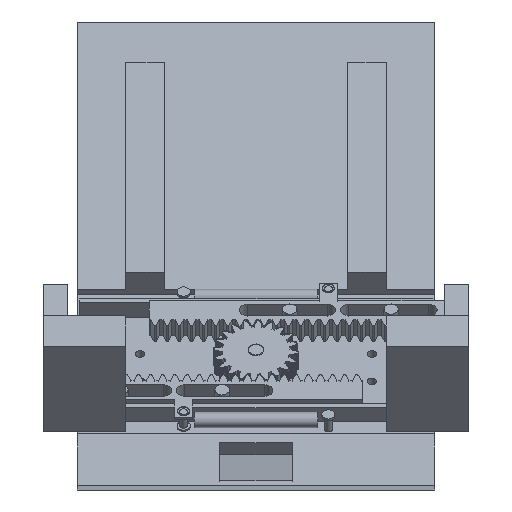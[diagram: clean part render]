
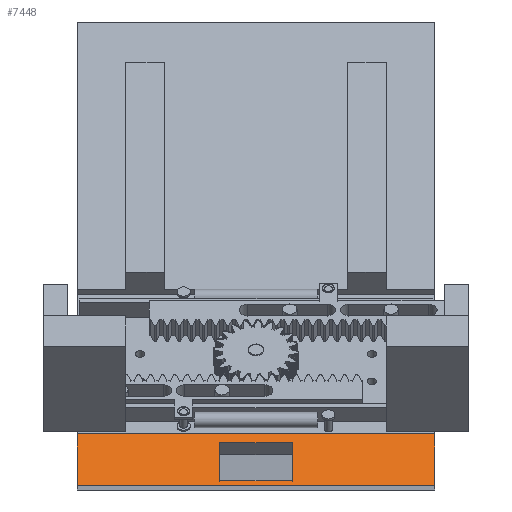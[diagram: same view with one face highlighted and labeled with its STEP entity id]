
A CAD part, front view. The second image highlights one B-rep face of the part: STEP entity #7448.
In plain terms, the highlighted planar face has unit normal (0, -0.707, 0.707).
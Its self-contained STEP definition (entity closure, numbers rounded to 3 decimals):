
#1767 = PLANE('',#1768);
#1768 = AXIS2_PLACEMENT_3D('',#1769,#1770,#1771);
#1769 = CARTESIAN_POINT('',(7.5,-49.202,60.041));
#1770 = DIRECTION('',(1.,0.,0.));
#1771 = DIRECTION('',(0.,0.707,0.707));
#1795 = PLANE('',#1796);
#1796 = AXIS2_PLACEMENT_3D('',#1797,#1798,#1799);
#1797 = CARTESIAN_POINT('',(-7.5,-49.202,60.041));
#1798 = DIRECTION('',(0.,0.707,0.707));
#1799 = DIRECTION('',(1.,0.,0.));
#1823 = PLANE('',#1824);
#1824 = AXIS2_PLACEMENT_3D('',#1825,#1826,#1827);
#1825 = CARTESIAN_POINT('',(-7.5,-49.202,60.041));
#1826 = DIRECTION('',(1.,0.,0.));
#1827 = DIRECTION('',(0.,0.707,0.707));
#2701 = PLANE('',#2702);
#2702 = AXIS2_PLACEMENT_3D('',#2703,#2704,#2705);
#2703 = CARTESIAN_POINT('',(-37.,-48.,57.));
#2704 = DIRECTION('',(-0.,1.,0.));
#2705 = DIRECTION('',(0.,0.,-1.));
#2729 = PLANE('',#2730);
#2730 = AXIS2_PLACEMENT_3D('',#2731,#2732,#2733);
#2731 = CARTESIAN_POINT('',(37.,16.992,89.829));
#2732 = DIRECTION('',(1.,0.,0.));
#2733 = DIRECTION('',(-0.,0.,1.));
#2783 = PLANE('',#2784);
#2784 = AXIS2_PLACEMENT_3D('',#2785,#2786,#2787);
#2785 = CARTESIAN_POINT('',(-37.,16.992,89.829));
#2786 = DIRECTION('',(1.,0.,0.));
#2787 = DIRECTION('',(-0.,0.,1.));
#3708 = PLANE('',#3709);
#3709 = AXIS2_PLACEMENT_3D('',#3710,#3711,#3712);
#3710 = CARTESIAN_POINT('',(-7.5,-41.282,67.96));
#3711 = DIRECTION('',(0.,0.707,0.707));
#3712 = DIRECTION('',(1.,0.,0.));
#4681 = VERTEX_POINT('',#4682);
#4682 = CARTESIAN_POINT('',(7.5,-39.161,65.839));
#4703 = EDGE_CURVE('',#4681,#4704,#4706,.T.);
#4704 = VERTEX_POINT('',#4705);
#4705 = CARTESIAN_POINT('',(7.5,-47.081,57.919));
#4706 = SURFACE_CURVE('',#4707,(#4711,#4718),.PCURVE_S1.);
#4707 = LINE('',#4708,#4709);
#4708 = CARTESIAN_POINT('',(7.5,0.46,105.46));
#4709 = VECTOR('',#4710,1.);
#4710 = DIRECTION('',(0.,-0.707,-0.707));
#4711 = PCURVE('',#1767,#4712);
#4712 = DEFINITIONAL_REPRESENTATION('',(#4713),#4717);
#4713 = LINE('',#4714,#4715);
#4714 = CARTESIAN_POINT('',(67.232,-3.));
#4715 = VECTOR('',#4716,1.);
#4716 = DIRECTION('',(-1.,0.));
#4717 = ( GEOMETRIC_REPRESENTATION_CONTEXT(2) 
PARAMETRIC_REPRESENTATION_CONTEXT() REPRESENTATION_CONTEXT('2D SPACE',''
  ) );
#4718 = PCURVE('',#4719,#4724);
#4719 = PLANE('',#4720);
#4720 = AXIS2_PLACEMENT_3D('',#4721,#4722,#4723);
#4721 = CARTESIAN_POINT('',(-37.,48.,153.));
#4722 = DIRECTION('',(0.,0.707,-0.707));
#4723 = DIRECTION('',(0.,-0.707,-0.707));
#4724 = DEFINITIONAL_REPRESENTATION('',(#4725),#4729);
#4725 = LINE('',#4726,#4727);
#4726 = CARTESIAN_POINT('',(67.232,-44.5));
#4727 = VECTOR('',#4728,1.);
#4728 = DIRECTION('',(1.,0.));
#4729 = ( GEOMETRIC_REPRESENTATION_CONTEXT(2) 
PARAMETRIC_REPRESENTATION_CONTEXT() REPRESENTATION_CONTEXT('2D SPACE',''
  ) );
#4759 = VERTEX_POINT('',#4760);
#4760 = CARTESIAN_POINT('',(-7.5,-47.081,57.919));
#4781 = EDGE_CURVE('',#4759,#4704,#4782,.T.);
#4782 = SURFACE_CURVE('',#4783,(#4787,#4794),.PCURVE_S1.);
#4783 = LINE('',#4784,#4785);
#4784 = CARTESIAN_POINT('',(-22.25,-47.081,57.919));
#4785 = VECTOR('',#4786,1.);
#4786 = DIRECTION('',(1.,-0.,0.));
#4787 = PCURVE('',#1795,#4788);
#4788 = DEFINITIONAL_REPRESENTATION('',(#4789),#4793);
#4789 = LINE('',#4790,#4791);
#4790 = CARTESIAN_POINT('',(-14.75,3.));
#4791 = VECTOR('',#4792,1.);
#4792 = DIRECTION('',(1.,0.));
#4793 = ( GEOMETRIC_REPRESENTATION_CONTEXT(2) 
PARAMETRIC_REPRESENTATION_CONTEXT() REPRESENTATION_CONTEXT('2D SPACE',''
  ) );
#4794 = PCURVE('',#4719,#4795);
#4795 = DEFINITIONAL_REPRESENTATION('',(#4796),#4800);
#4796 = LINE('',#4797,#4798);
#4797 = CARTESIAN_POINT('',(134.465,-14.75));
#4798 = VECTOR('',#4799,1.);
#4799 = DIRECTION('',(0.,-1.));
#4800 = ( GEOMETRIC_REPRESENTATION_CONTEXT(2) 
PARAMETRIC_REPRESENTATION_CONTEXT() REPRESENTATION_CONTEXT('2D SPACE',''
  ) );
#4808 = VERTEX_POINT('',#4809);
#4809 = CARTESIAN_POINT('',(-7.5,-39.161,65.839));
#4830 = EDGE_CURVE('',#4808,#4759,#4831,.T.);
#4831 = SURFACE_CURVE('',#4832,(#4836,#4843),.PCURVE_S1.);
#4832 = LINE('',#4833,#4834);
#4833 = CARTESIAN_POINT('',(-7.5,0.46,105.46));
#4834 = VECTOR('',#4835,1.);
#4835 = DIRECTION('',(0.,-0.707,-0.707));
#4836 = PCURVE('',#1823,#4837);
#4837 = DEFINITIONAL_REPRESENTATION('',(#4838),#4842);
#4838 = LINE('',#4839,#4840);
#4839 = CARTESIAN_POINT('',(67.232,-3.));
#4840 = VECTOR('',#4841,1.);
#4841 = DIRECTION('',(-1.,0.));
#4842 = ( GEOMETRIC_REPRESENTATION_CONTEXT(2) 
PARAMETRIC_REPRESENTATION_CONTEXT() REPRESENTATION_CONTEXT('2D SPACE',''
  ) );
#4843 = PCURVE('',#4719,#4844);
#4844 = DEFINITIONAL_REPRESENTATION('',(#4845),#4849);
#4845 = LINE('',#4846,#4847);
#4846 = CARTESIAN_POINT('',(67.232,-29.5));
#4847 = VECTOR('',#4848,1.);
#4848 = DIRECTION('',(1.,0.));
#4849 = ( GEOMETRIC_REPRESENTATION_CONTEXT(2) 
PARAMETRIC_REPRESENTATION_CONTEXT() REPRESENTATION_CONTEXT('2D SPACE',''
  ) );
#6621 = EDGE_CURVE('',#6622,#6624,#6626,.T.);
#6622 = VERTEX_POINT('',#6623);
#6623 = CARTESIAN_POINT('',(-37.,-48.,57.));
#6624 = VERTEX_POINT('',#6625);
#6625 = CARTESIAN_POINT('',(37.,-48.,57.));
#6626 = SURFACE_CURVE('',#6627,(#6631,#6638),.PCURVE_S1.);
#6627 = LINE('',#6628,#6629);
#6628 = CARTESIAN_POINT('',(-37.,-48.,57.));
#6629 = VECTOR('',#6630,1.);
#6630 = DIRECTION('',(1.,0.,0.));
#6631 = PCURVE('',#2701,#6632);
#6632 = DEFINITIONAL_REPRESENTATION('',(#6633),#6637);
#6633 = LINE('',#6634,#6635);
#6634 = CARTESIAN_POINT('',(0.,0.));
#6635 = VECTOR('',#6636,1.);
#6636 = DIRECTION('',(0.,-1.));
#6637 = ( GEOMETRIC_REPRESENTATION_CONTEXT(2) 
PARAMETRIC_REPRESENTATION_CONTEXT() REPRESENTATION_CONTEXT('2D SPACE',''
  ) );
#6638 = PCURVE('',#4719,#6639);
#6639 = DEFINITIONAL_REPRESENTATION('',(#6640),#6644);
#6640 = LINE('',#6641,#6642);
#6641 = CARTESIAN_POINT('',(135.765,0.));
#6642 = VECTOR('',#6643,1.);
#6643 = DIRECTION('',(0.,-1.));
#6644 = ( GEOMETRIC_REPRESENTATION_CONTEXT(2) 
PARAMETRIC_REPRESENTATION_CONTEXT() REPRESENTATION_CONTEXT('2D SPACE',''
  ) );
#6692 = EDGE_CURVE('',#6693,#6624,#6695,.T.);
#6693 = VERTEX_POINT('',#6694);
#6694 = CARTESIAN_POINT('',(37.,-37.323,67.677));
#6695 = SURFACE_CURVE('',#6696,(#6700,#6707),.PCURVE_S1.);
#6696 = LINE('',#6697,#6698);
#6697 = CARTESIAN_POINT('',(37.,48.,153.));
#6698 = VECTOR('',#6699,1.);
#6699 = DIRECTION('',(0.,-0.707,-0.707));
#6700 = PCURVE('',#2729,#6701);
#6701 = DEFINITIONAL_REPRESENTATION('',(#6702),#6706);
#6702 = LINE('',#6703,#6704);
#6703 = CARTESIAN_POINT('',(63.171,-31.008));
#6704 = VECTOR('',#6705,1.);
#6705 = DIRECTION('',(-0.707,0.707));
#6706 = ( GEOMETRIC_REPRESENTATION_CONTEXT(2) 
PARAMETRIC_REPRESENTATION_CONTEXT() REPRESENTATION_CONTEXT('2D SPACE',''
  ) );
#6707 = PCURVE('',#4719,#6708);
#6708 = DEFINITIONAL_REPRESENTATION('',(#6709),#6713);
#6709 = LINE('',#6710,#6711);
#6710 = CARTESIAN_POINT('',(0.,-74.));
#6711 = VECTOR('',#6712,1.);
#6712 = DIRECTION('',(1.,0.));
#6713 = ( GEOMETRIC_REPRESENTATION_CONTEXT(2) 
PARAMETRIC_REPRESENTATION_CONTEXT() REPRESENTATION_CONTEXT('2D SPACE',''
  ) );
#6861 = PLANE('',#6862);
#6862 = AXIS2_PLACEMENT_3D('',#6863,#6864,#6865);
#6863 = CARTESIAN_POINT('',(-37.1,-41.495,71.849));
#6864 = DIRECTION('',(0.,0.707,0.707));
#6865 = DIRECTION('',(1.,0.,0.));
#6924 = EDGE_CURVE('',#6925,#6622,#6927,.T.);
#6925 = VERTEX_POINT('',#6926);
#6926 = CARTESIAN_POINT('',(-37.,-37.323,67.677));
#6927 = SURFACE_CURVE('',#6928,(#6932,#6939),.PCURVE_S1.);
#6928 = LINE('',#6929,#6930);
#6929 = CARTESIAN_POINT('',(-37.,48.,153.));
#6930 = VECTOR('',#6931,1.);
#6931 = DIRECTION('',(0.,-0.707,-0.707));
#6932 = PCURVE('',#2783,#6933);
#6933 = DEFINITIONAL_REPRESENTATION('',(#6934),#6938);
#6934 = LINE('',#6935,#6936);
#6935 = CARTESIAN_POINT('',(63.171,-31.008));
#6936 = VECTOR('',#6937,1.);
#6937 = DIRECTION('',(-0.707,0.707));
#6938 = ( GEOMETRIC_REPRESENTATION_CONTEXT(2) 
PARAMETRIC_REPRESENTATION_CONTEXT() REPRESENTATION_CONTEXT('2D SPACE',''
  ) );
#6939 = PCURVE('',#4719,#6940);
#6940 = DEFINITIONAL_REPRESENTATION('',(#6941),#6945);
#6941 = LINE('',#6942,#6943);
#6942 = CARTESIAN_POINT('',(0.,0.));
#6943 = VECTOR('',#6944,1.);
#6944 = DIRECTION('',(1.,0.));
#6945 = ( GEOMETRIC_REPRESENTATION_CONTEXT(2) 
PARAMETRIC_REPRESENTATION_CONTEXT() REPRESENTATION_CONTEXT('2D SPACE',''
  ) );
#7295 = EDGE_CURVE('',#4808,#4681,#7296,.T.);
#7296 = SURFACE_CURVE('',#7297,(#7301,#7308),.PCURVE_S1.);
#7297 = LINE('',#7298,#7299);
#7298 = CARTESIAN_POINT('',(-22.25,-39.161,65.839));
#7299 = VECTOR('',#7300,1.);
#7300 = DIRECTION('',(1.,-0.,0.));
#7301 = PCURVE('',#3708,#7302);
#7302 = DEFINITIONAL_REPRESENTATION('',(#7303),#7307);
#7303 = LINE('',#7304,#7305);
#7304 = CARTESIAN_POINT('',(-14.75,3.));
#7305 = VECTOR('',#7306,1.);
#7306 = DIRECTION('',(1.,0.));
#7307 = ( GEOMETRIC_REPRESENTATION_CONTEXT(2) 
PARAMETRIC_REPRESENTATION_CONTEXT() REPRESENTATION_CONTEXT('2D SPACE',''
  ) );
#7308 = PCURVE('',#4719,#7309);
#7309 = DEFINITIONAL_REPRESENTATION('',(#7310),#7314);
#7310 = LINE('',#7311,#7312);
#7311 = CARTESIAN_POINT('',(123.265,-14.75));
#7312 = VECTOR('',#7313,1.);
#7313 = DIRECTION('',(0.,-1.));
#7314 = ( GEOMETRIC_REPRESENTATION_CONTEXT(2) 
PARAMETRIC_REPRESENTATION_CONTEXT() REPRESENTATION_CONTEXT('2D SPACE',''
  ) );
#7448 = ADVANCED_FACE('',(#7449,#7473),#4719,.F.);
#7449 = FACE_BOUND('',#7450,.F.);
#7450 = EDGE_LOOP('',(#7451,#7452,#7471,#7472));
#7451 = ORIENTED_EDGE('',*,*,#6924,.F.);
#7452 = ORIENTED_EDGE('',*,*,#7453,.T.);
#7453 = EDGE_CURVE('',#6925,#6693,#7454,.T.);
#7454 = SURFACE_CURVE('',#7455,(#7459,#7465),.PCURVE_S1.);
#7455 = LINE('',#7456,#7457);
#7456 = CARTESIAN_POINT('',(-37.05,-37.323,67.677));
#7457 = VECTOR('',#7458,1.);
#7458 = DIRECTION('',(1.,-0.,0.));
#7459 = PCURVE('',#4719,#7460);
#7460 = DEFINITIONAL_REPRESENTATION('',(#7461),#7464);
#7461 = B_SPLINE_CURVE_WITH_KNOTS('',1,(#7462,#7463),.UNSPECIFIED.,.F.,
  .F.,(2,2),(0.05,74.05),.PIECEWISE_BEZIER_KNOTS.);
#7462 = CARTESIAN_POINT('',(120.665,0.));
#7463 = CARTESIAN_POINT('',(120.665,-74.));
#7464 = ( GEOMETRIC_REPRESENTATION_CONTEXT(2) 
PARAMETRIC_REPRESENTATION_CONTEXT() REPRESENTATION_CONTEXT('2D SPACE',''
  ) );
#7465 = PCURVE('',#6861,#7466);
#7466 = DEFINITIONAL_REPRESENTATION('',(#7467),#7470);
#7467 = B_SPLINE_CURVE_WITH_KNOTS('',1,(#7468,#7469),.UNSPECIFIED.,.F.,
  .F.,(2,2),(0.05,74.05),.PIECEWISE_BEZIER_KNOTS.);
#7468 = CARTESIAN_POINT('',(0.1,5.9));
#7469 = CARTESIAN_POINT('',(74.1,5.9));
#7470 = ( GEOMETRIC_REPRESENTATION_CONTEXT(2) 
PARAMETRIC_REPRESENTATION_CONTEXT() REPRESENTATION_CONTEXT('2D SPACE',''
  ) );
#7471 = ORIENTED_EDGE('',*,*,#6692,.T.);
#7472 = ORIENTED_EDGE('',*,*,#6621,.F.);
#7473 = FACE_BOUND('',#7474,.F.);
#7474 = EDGE_LOOP('',(#7475,#7476,#7477,#7478));
#7475 = ORIENTED_EDGE('',*,*,#7295,.F.);
#7476 = ORIENTED_EDGE('',*,*,#4830,.T.);
#7477 = ORIENTED_EDGE('',*,*,#4781,.T.);
#7478 = ORIENTED_EDGE('',*,*,#4703,.F.);
